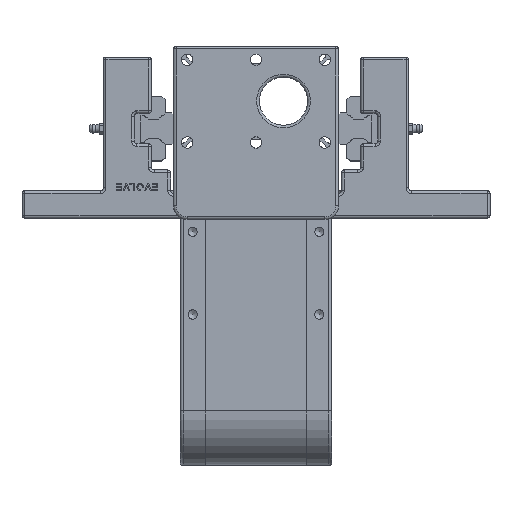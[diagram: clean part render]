
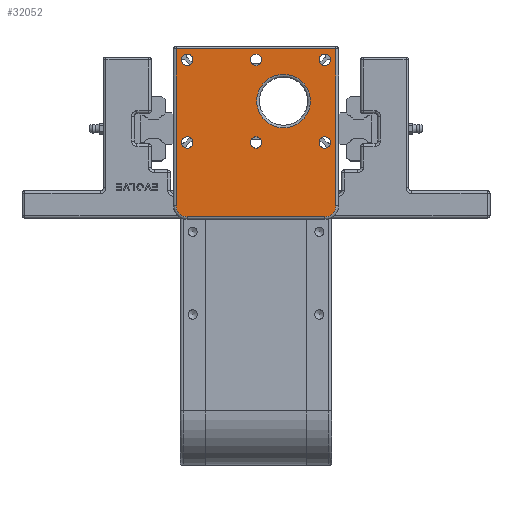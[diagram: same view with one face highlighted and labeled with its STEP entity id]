
A CAD part, front view. The second image highlights one B-rep face of the part: STEP entity #32052.
In plain terms, the highlighted planar face has unit normal (0, -1, 0) as drawn and (0, 0, 1) by its records, which use the part's own axes.
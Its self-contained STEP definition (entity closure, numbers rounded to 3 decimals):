
#2158=FACE_BOUND('',#4616,.T.);
#2159=FACE_BOUND('',#4617,.T.);
#2160=FACE_BOUND('',#4618,.T.);
#2161=FACE_BOUND('',#4619,.T.);
#2162=FACE_BOUND('',#4620,.T.);
#2163=FACE_BOUND('',#4621,.T.);
#2164=FACE_BOUND('',#4622,.T.);
#2653=FACE_OUTER_BOUND('',#4615,.T.);
#4615=EDGE_LOOP('',(#23135,#23136,#23137,#23138,#23139,#23140));
#4616=EDGE_LOOP('',(#23141));
#4617=EDGE_LOOP('',(#23142));
#4618=EDGE_LOOP('',(#23143));
#4619=EDGE_LOOP('',(#23144));
#4620=EDGE_LOOP('',(#23145));
#4621=EDGE_LOOP('',(#23146));
#4622=EDGE_LOOP('',(#23147));
#6776=CIRCLE('',#34478,19.5);
#6779=CIRCLE('',#34482,8.);
#6780=CIRCLE('',#34483,8.);
#6781=CIRCLE('',#34484,4.188);
#6782=CIRCLE('',#34485,4.188);
#6783=CIRCLE('',#34486,4.188);
#6784=CIRCLE('',#34487,4.188);
#6785=CIRCLE('',#34488,4.188);
#6786=CIRCLE('',#34489,4.188);
#8531=LINE('',#48821,#11530);
#8532=LINE('',#48823,#11531);
#8533=LINE('',#48825,#11532);
#8534=LINE('',#48828,#11533);
#11530=VECTOR('',#38982,10.);
#11531=VECTOR('',#38983,10.);
#11532=VECTOR('',#38984,10.);
#11533=VECTOR('',#38987,10.);
#14510=VERTEX_POINT('',#48811);
#14512=VERTEX_POINT('',#48817);
#14513=VERTEX_POINT('',#48818);
#14514=VERTEX_POINT('',#48820);
#14515=VERTEX_POINT('',#48822);
#14516=VERTEX_POINT('',#48824);
#14517=VERTEX_POINT('',#48826);
#14518=VERTEX_POINT('',#48829);
#14519=VERTEX_POINT('',#48831);
#14520=VERTEX_POINT('',#48833);
#14521=VERTEX_POINT('',#48835);
#14522=VERTEX_POINT('',#48837);
#14523=VERTEX_POINT('',#48839);
#17765=EDGE_CURVE('',#14510,#14510,#6776,.T.);
#17768=EDGE_CURVE('',#14512,#14513,#6779,.T.);
#17769=EDGE_CURVE('',#14514,#14512,#8531,.T.);
#17770=EDGE_CURVE('',#14515,#14514,#8532,.T.);
#17771=EDGE_CURVE('',#14516,#14515,#8533,.T.);
#17772=EDGE_CURVE('',#14517,#14516,#6780,.T.);
#17773=EDGE_CURVE('',#14513,#14517,#8534,.T.);
#17774=EDGE_CURVE('',#14518,#14518,#6781,.T.);
#17775=EDGE_CURVE('',#14519,#14519,#6782,.T.);
#17776=EDGE_CURVE('',#14520,#14520,#6783,.T.);
#17777=EDGE_CURVE('',#14521,#14521,#6784,.T.);
#17778=EDGE_CURVE('',#14522,#14522,#6785,.T.);
#17779=EDGE_CURVE('',#14523,#14523,#6786,.T.);
#23135=ORIENTED_EDGE('',*,*,#17768,.F.);
#23136=ORIENTED_EDGE('',*,*,#17769,.F.);
#23137=ORIENTED_EDGE('',*,*,#17770,.F.);
#23138=ORIENTED_EDGE('',*,*,#17771,.F.);
#23139=ORIENTED_EDGE('',*,*,#17772,.F.);
#23140=ORIENTED_EDGE('',*,*,#17773,.F.);
#23141=ORIENTED_EDGE('',*,*,#17774,.T.);
#23142=ORIENTED_EDGE('',*,*,#17775,.T.);
#23143=ORIENTED_EDGE('',*,*,#17776,.T.);
#23144=ORIENTED_EDGE('',*,*,#17777,.T.);
#23145=ORIENTED_EDGE('',*,*,#17778,.T.);
#23146=ORIENTED_EDGE('',*,*,#17779,.T.);
#23147=ORIENTED_EDGE('',*,*,#17765,.F.);
#30781=PLANE('',#34481);
#32052=ADVANCED_FACE('',(#2653,#2158,#2159,#2160,#2161,#2162,#2163,#2164),
#30781,.T.);
#34478=AXIS2_PLACEMENT_3D('',#48812,#38972,#38973);
#34481=AXIS2_PLACEMENT_3D('',#48816,#38978,#38979);
#34482=AXIS2_PLACEMENT_3D('',#48819,#38980,#38981);
#34483=AXIS2_PLACEMENT_3D('',#48827,#38985,#38986);
#34484=AXIS2_PLACEMENT_3D('',#48830,#38988,#38989);
#34485=AXIS2_PLACEMENT_3D('',#48832,#38990,#38991);
#34486=AXIS2_PLACEMENT_3D('',#48834,#38992,#38993);
#34487=AXIS2_PLACEMENT_3D('',#48836,#38994,#38995);
#34488=AXIS2_PLACEMENT_3D('',#48838,#38996,#38997);
#34489=AXIS2_PLACEMENT_3D('',#48840,#38998,#38999);
#38972=DIRECTION('center_axis',(0.,0.,1.));
#38973=DIRECTION('ref_axis',(-1.,0.,0.));
#38978=DIRECTION('center_axis',(0.,0.,1.));
#38979=DIRECTION('ref_axis',(1.,0.,0.));
#38980=DIRECTION('center_axis',(0.,0.,-1.));
#38981=DIRECTION('ref_axis',(-0.707,0.707,0.));
#38982=DIRECTION('',(0.,1.,0.));
#38983=DIRECTION('',(-1.,0.,0.));
#38984=DIRECTION('',(0.,-1.,0.));
#38985=DIRECTION('center_axis',(0.,0.,-1.));
#38986=DIRECTION('ref_axis',(0.707,0.707,0.));
#38987=DIRECTION('',(1.,0.,0.));
#38988=DIRECTION('center_axis',(0.,0.,-1.));
#38989=DIRECTION('ref_axis',(1.,0.,0.));
#38990=DIRECTION('center_axis',(0.,0.,-1.));
#38991=DIRECTION('ref_axis',(1.,0.,0.));
#38992=DIRECTION('center_axis',(0.,0.,-1.));
#38993=DIRECTION('ref_axis',(1.,0.,0.));
#38994=DIRECTION('center_axis',(0.,0.,-1.));
#38995=DIRECTION('ref_axis',(1.,0.,0.));
#38996=DIRECTION('center_axis',(0.,0.,-1.));
#38997=DIRECTION('ref_axis',(1.,0.,0.));
#38998=DIRECTION('center_axis',(0.,0.,-1.));
#38999=DIRECTION('ref_axis',(1.,0.,0.));
#48811=CARTESIAN_POINT('',(-0.5,0.,520.));
#48812=CARTESIAN_POINT('Origin',(-20.,0.,520.));
#48816=CARTESIAN_POINT('Origin',(0.,23.,520.));
#48817=CARTESIAN_POINT('',(-58.,76.,520.));
#48818=CARTESIAN_POINT('',(-50.,84.,520.));
#48819=CARTESIAN_POINT('Origin',(-50.,76.,520.));
#48820=CARTESIAN_POINT('',(-58.,-38.,520.));
#48821=CARTESIAN_POINT('',(-58.,49.5,520.));
#48822=CARTESIAN_POINT('',(58.,-38.,520.));
#48823=CARTESIAN_POINT('',(-29.,-38.,520.));
#48824=CARTESIAN_POINT('',(58.,76.,520.));
#48825=CARTESIAN_POINT('',(58.,-7.5,520.));
#48826=CARTESIAN_POINT('',(50.,84.,520.));
#48827=CARTESIAN_POINT('Origin',(50.,76.,520.));
#48828=CARTESIAN_POINT('',(25.,84.,520.));
#48829=CARTESIAN_POINT('',(-4.188,30.,520.));
#48830=CARTESIAN_POINT('Origin',(0.,30.,520.));
#48831=CARTESIAN_POINT('',(45.812,-30.,520.));
#48832=CARTESIAN_POINT('Origin',(50.,-30.,520.));
#48833=CARTESIAN_POINT('',(-54.188,30.,520.));
#48834=CARTESIAN_POINT('Origin',(-50.,30.,520.));
#48835=CARTESIAN_POINT('',(-54.188,-30.,520.));
#48836=CARTESIAN_POINT('Origin',(-50.,-30.,520.));
#48837=CARTESIAN_POINT('',(45.812,30.,520.));
#48838=CARTESIAN_POINT('Origin',(50.,30.,520.));
#48839=CARTESIAN_POINT('',(-4.188,-30.,520.));
#48840=CARTESIAN_POINT('Origin',(0.,-30.,520.));
